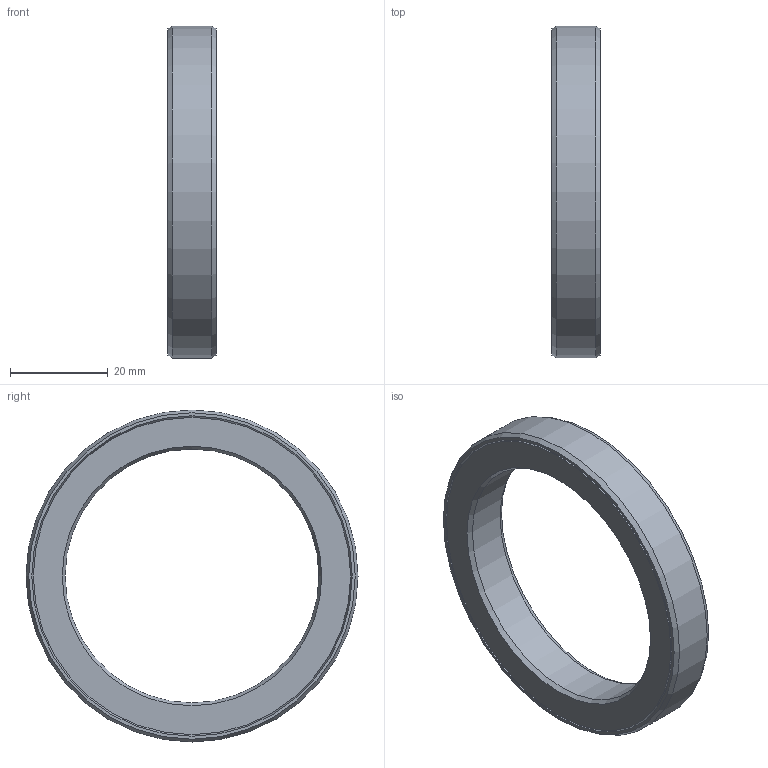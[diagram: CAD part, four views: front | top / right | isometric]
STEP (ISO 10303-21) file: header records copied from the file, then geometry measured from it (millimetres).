
FILE_DESCRIPTION(/* description */ (''),/* implementation_level */ '2;1');
FILE_NAME(/* name */ '301220 L 52x68x10.stp',/* time_stamp */ '2016-12-15T09:26:03+01:00',/* author */ (''),/* organization */ (''),/* preprocessor_version */ 'ST-DEVELOPER v15',/* originating_system */ 'SIEMENS PLM Software NX 8.5',/* authorisation */ '');
FILE_SCHEMA (('CONFIG_CONTROL_DESIGN'));
Length unit declared in the file: millimetre
Products named in the file (1): ATE0000122_01
Bounding box: 10 x 68 x 68 mm (x, y, z)
Volume: 14151.7 mm3; surface area: 11071.3 mm2
Topology: 2 solids, 2 shells, 18 faces, 34 edges, 20 vertices
Faces by surface type: cone 12, plane 4, cylinder 2
Full cylindrical faces by diameter (mm): 52 x1, 68 x1
Entity records: 454 total; most frequent: DIRECTION 74, CARTESIAN_POINT 55, AXIS2_PLACEMENT_3D 37, FACE_BOUND 36, EDGE_LOOP 36, ORIENTED_EDGE 36, ADVANCED_FACE 18, VERTEX_POINT 18
